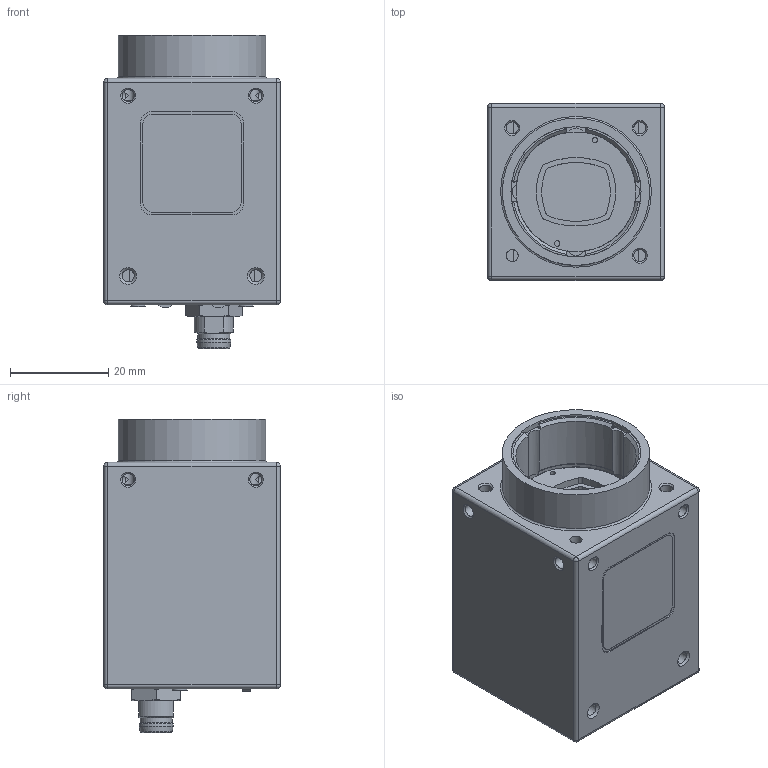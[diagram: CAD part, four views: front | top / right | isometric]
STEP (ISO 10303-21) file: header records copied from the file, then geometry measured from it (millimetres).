
FILE_DESCRIPTION(/* description */ ('Unknown'),/* implementation_level */ '2;1');
FILE_NAME(/* name */ '11702638_VCXG-51M.XC',/* time_stamp */ '2021-09-17T10:07:52+02:00',/* author */ ('Unknown'),/* organization */ ('Baumer'),/* preprocessor_version */ 'ST-DEVELOPER v16.7',/* originating_system */ 'Solid Edge',/* authorisation */ 'Unknown');
FILE_SCHEMA (('AUTOMOTIVE_DESIGN {1 0 10303 214 3 1 1}'));
Products named in the file (1): DBG VCXG-51M.XC STEP
Bounding box: 36 x 36 x 63.75 mm (x, y, z)
Volume: 30248.4 mm3; surface area: 25214.5 mm2
Topology: 2 solids, 11 shells, 2029 faces, 5474 edges, 3658 vertices
Faces by surface type: plane 1221, cylinder 640, cone 90, bspline 34, torus 24, sphere 20
Full cylindrical faces by diameter (mm): 0.217 x1, 0.6 x242, 1.1 x2, 1.221 x4, 1.4 x4, 1.567 x2, 1.6 x2, 1.9 x4, 2.459 x22, 3 x4, 6.5 x1, 6.9 x1, 8.4 x1, 9 x1, 9.4 x1, 12 x1, 26 x1, 26.5 x1, 26.9 x1, 30 x1
Entity records: 75357 total; most frequent: CARTESIAN_POINT 12891, DIRECTION 9924, ORIENTED_EDGE 9544, EDGE_CURVE 4772, AXIS2_PLACEMENT_3D 3559, VERTEX_POINT 3345, LINE 2806, VECTOR 2806
